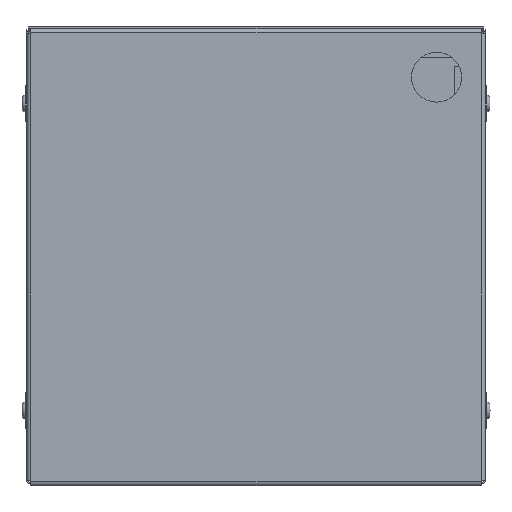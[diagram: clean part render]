
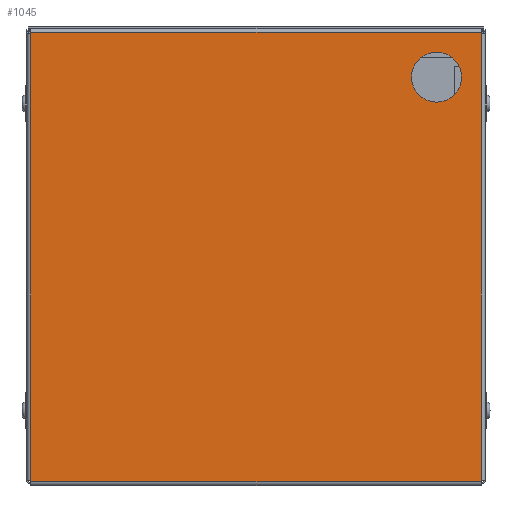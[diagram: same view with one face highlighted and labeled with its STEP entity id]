
A CAD part, front view. The second image highlights one B-rep face of the part: STEP entity #1045.
In plain terms, the highlighted planar face has unit normal (0, -1, 0).
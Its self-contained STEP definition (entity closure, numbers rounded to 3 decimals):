
#1045=ADVANCED_FACE('',(#2820,#2822),#2824,.F.);
#2820=FACE_BOUND('',#2821,.T.);
#2821=EDGE_LOOP('',(#4790,#4791,#4792,#4793,#4794,#4795,#4796,#4797));
#2822=FACE_BOUND('',#2823,.T.);
#2823=EDGE_LOOP('',(#4798));
#2824=PLANE('',#2825);
#2825=AXIS2_PLACEMENT_3D('',#2826,#2827,#2828);
#2826=CARTESIAN_POINT('',(0.,0.,0.));
#2827=DIRECTION('',(0.,1.,0.));
#2828=DIRECTION('',(1.,0.,0.));
#4790=ORIENTED_EDGE('',*,*,#5769,.T.);
#4791=ORIENTED_EDGE('',*,*,#5770,.F.);
#4792=ORIENTED_EDGE('',*,*,#5745,.T.);
#4793=ORIENTED_EDGE('',*,*,#5771,.F.);
#4794=ORIENTED_EDGE('',*,*,#5772,.T.);
#4795=ORIENTED_EDGE('',*,*,#5773,.F.);
#4796=ORIENTED_EDGE('',*,*,#5774,.T.);
#4797=ORIENTED_EDGE('',*,*,#5775,.F.);
#4798=ORIENTED_EDGE('',*,*,#5776,.T.);
#5745=EDGE_CURVE('',#6286,#6284,#6287,.T.);
#5769=EDGE_CURVE('',#6323,#6324,#6325,.T.);
#5770=EDGE_CURVE('',#6286,#6324,#6326,.T.);
#5771=EDGE_CURVE('',#6327,#6284,#6328,.T.);
#5772=EDGE_CURVE('',#6327,#6329,#6330,.T.);
#5773=EDGE_CURVE('',#6331,#6329,#6332,.T.);
#5774=EDGE_CURVE('',#6331,#6333,#6334,.T.);
#5775=EDGE_CURVE('',#6323,#6333,#6335,.T.);
#5776=EDGE_CURVE('',#6336,#6336,#6337,.T.);
#6284=VERTEX_POINT('',#7235);
#6286=VERTEX_POINT('',#7240);
#6287=LINE('',#7241,#7242);
#6323=VERTEX_POINT('',#7330);
#6324=VERTEX_POINT('',#7331);
#6325=LINE('',#7332,#7333);
#6326=LINE('',#7335,#7336);
#6327=VERTEX_POINT('',#7338);
#6328=LINE('',#7339,#7340);
#6329=VERTEX_POINT('',#7342);
#6330=LINE('',#7343,#7344);
#6331=VERTEX_POINT('',#7346);
#6332=LINE('',#7347,#7348);
#6333=VERTEX_POINT('',#7350);
#6334=LINE('',#7351,#7352);
#6335=LINE('',#7354,#7355);
#6336=VERTEX_POINT('',#7357);
#6337=CIRCLE('',#7358,10.25);
#7235=CARTESIAN_POINT('',(92.4,0.,91.45));
#7240=CARTESIAN_POINT('',(92.4,0.,-91.45));
#7241=CARTESIAN_POINT('',(92.4,0.,-91.45));
#7242=VECTOR('',#7243,1.);
#7243=DIRECTION('',(0.,0.,1.));
#7330=CARTESIAN_POINT('',(-92.4,0.,-92.1));
#7331=CARTESIAN_POINT('',(92.4,0.,-92.1));
#7332=CARTESIAN_POINT('',(-92.4,0.,-92.1));
#7333=VECTOR('',#7334,1.);
#7334=DIRECTION('',(1.,0.,0.));
#7335=CARTESIAN_POINT('',(92.4,0.,-91.45));
#7336=VECTOR('',#7337,1.);
#7337=DIRECTION('',(0.,0.,-1.));
#7338=CARTESIAN_POINT('',(92.4,0.,92.1));
#7339=CARTESIAN_POINT('',(92.4,0.,92.1));
#7340=VECTOR('',#7341,1.);
#7341=DIRECTION('',(0.,0.,-1.));
#7342=CARTESIAN_POINT('',(-92.4,0.,92.1));
#7343=CARTESIAN_POINT('',(92.4,0.,92.1));
#7344=VECTOR('',#7345,1.);
#7345=DIRECTION('',(-1.,0.,0.));
#7346=CARTESIAN_POINT('',(-92.4,0.,91.45));
#7347=CARTESIAN_POINT('',(-92.4,0.,91.45));
#7348=VECTOR('',#7349,1.);
#7349=DIRECTION('',(0.,0.,1.));
#7350=CARTESIAN_POINT('',(-92.4,0.,-91.45));
#7351=CARTESIAN_POINT('',(-92.4,0.,91.45));
#7352=VECTOR('',#7353,1.);
#7353=DIRECTION('',(0.,0.,-1.));
#7354=CARTESIAN_POINT('',(-92.4,0.,-92.1));
#7355=VECTOR('',#7356,1.);
#7356=DIRECTION('',(0.,0.,1.));
#7357=CARTESIAN_POINT('',(84.25,0.,73.7));
#7358=AXIS2_PLACEMENT_3D('',#7359,#7360,#7361);
#7359=CARTESIAN_POINT('',(74.,0.,73.7));
#7360=DIRECTION('',(0.,1.,0.));
#7361=DIRECTION('',(1.,0.,0.));
